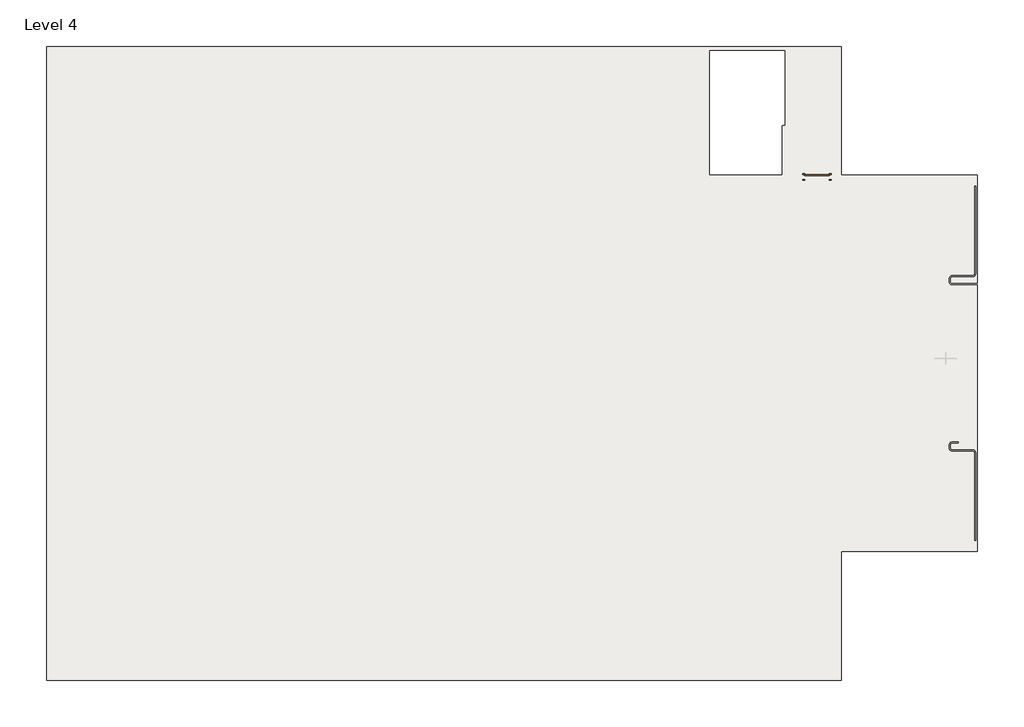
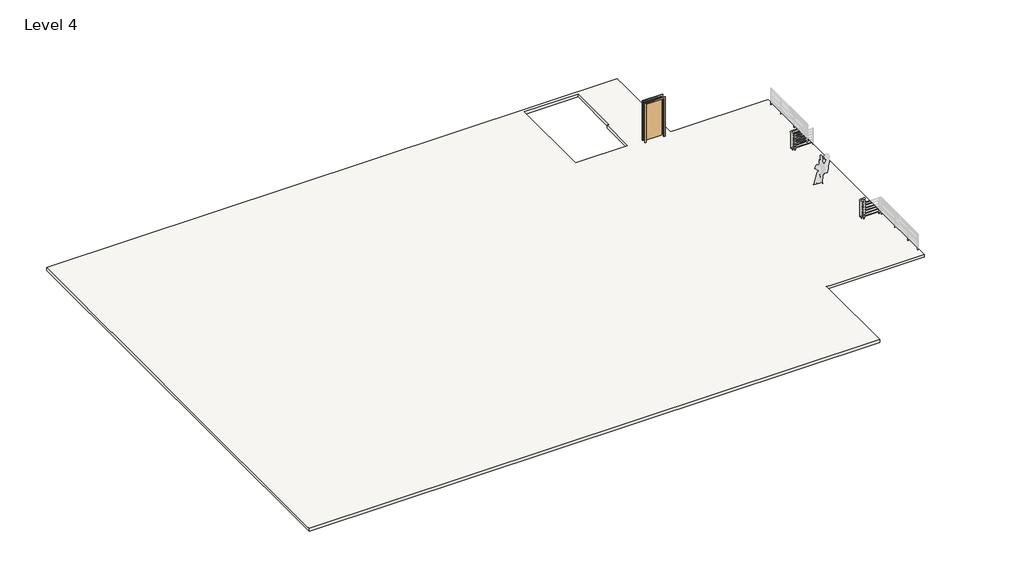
# One storey, part 1 of 4: 1 door, 1 slab.
"""IFC4 building model written with IfcOpenShell, lengths in millimetres."""

from ifc_helpers import new_model, si_unit, origin, place, context, project, spatial, faceted_brep, transform, mapped, element, save
from components import door_d6d25fb4

model = new_model("IFC4")

# Units and contexts
model_context = context("Model", 3, world=origin())
ifc_project = project(units=[si_unit("LENGTHUNIT", "METRE", prefix="MILLI")], contexts=[model_context])

# Site, building, storey
site = spatial("IfcSite", under=ifc_project)
building = spatial("IfcBuilding", under=site)
storey = spatial("IfcBuildingStorey", under=building, Name="Level 4", Elevation=10972.8)

# Door
placement = place(None, origin())
door_shape = door_d6d25fb4(model_context)
element("IfcDoor", 1, ObjectType="Single-Flush : 36\" x 84\"", at=placement, inside=storey, context=model_context, shape_type="MappedRepresentation", body=[
    mapped(door_shape, transform((11946.7089721, 4553.8023319, 10972.8), x_axis=(1.0, 0.0, 0.0), y_axis=(0.0, 1.0, 0.0), z_axis=(0.0, 0.0, 1.0))),
])

# Slab
element("IfcSlab", 2, ObjectType="Concrete Deck with Terrazzo", at=placement, inside=storey, context=model_context, shape_type="Brep", body=[
    faceted_brep([(-17231.5410279, 9498.8648319, 10820.4), (-17066.4410279, 9498.8648319, 10820.4), (12873.8089721, 9498.8648319, 10820.4), (12873.8089721, 9333.7648319, 10820.4), (12873.8089721, 9076.5898319, 10820.4), (12873.8089721, 5418.9898319, 10820.4), (12873.8089721, 4622.0648319, 10820.4), (13061.1339721, 4622.0648319, 10820.4), (17937.9339721, 4622.0648319, 10820.4), (18023.4049721, 4622.0648319, 10820.4), (18023.4049721, -9633.6851681, 10820.4), (17937.9339721, -9633.6851681, 10820.4), (13061.1339721, -9633.6851681, 10820.4), (12873.8089721, -9633.6851681, 10820.4), (12873.8089721, -10430.6101681, 10820.4), (12873.8089721, -14088.2101681, 10820.4), (12873.8089721, -14345.3851681, 10820.4), (12873.8089721, -14510.4851681, 10820.4), (-17231.5410279, -14510.4851681, 10820.4), (-17231.5410279, -14345.3851681, 10820.4), (7883.7381388, 9333.7648319, 10820.4), (7883.7381388, 4651.5398319, 10820.4), (10616.9131388, 4651.5398319, 10820.4), (10616.9131388, 6514.3648319, 10820.4), (10718.2353862, 6514.3648319, 10820.4), (10718.2353862, 9333.7648319, 10820.4), (12873.8089721, 9498.8648319, 10972.8), (-17066.4410279, 9498.8648319, 10972.8), (-17231.5410279, 9498.8648319, 10972.8), (-17231.5410279, -14345.3851681, 10972.8), (-17231.5410279, -14510.4851681, 10972.8), (12873.8089721, -14510.4851681, 10972.8), (12873.8089721, -14345.3851681, 10972.8), (12873.8089721, -14088.2101681, 10972.8), (12873.8089721, -10430.6101681, 10972.8), (12873.8089721, -9633.6851681, 10972.8), (13061.1339721, -9633.6851681, 10972.8), (17937.9339721, -9633.6851681, 10972.8), (18023.4049721, -9633.6851681, 10972.8), (18023.4049721, 4622.0648319, 10972.8), (17937.9339721, 4622.0648319, 10972.8), (13061.1339721, 4622.0648319, 10972.8), (12873.8089721, 4622.0648319, 10972.8), (12873.8089721, 5418.9898319, 10972.8), (12873.8089721, 9076.5898319, 10972.8), (12873.8089721, 9333.7648319, 10972.8), (7883.7381388, 4651.5398319, 10972.8), (7883.7381388, 9333.7648319, 10972.8), (10718.2353862, 9333.7648319, 10972.8), (10718.2353862, 6514.3648319, 10972.8), (10616.9131388, 6514.3648319, 10972.8), (10616.9131388, 4651.5398319, 10972.8)], [[[0, 1, 2, 3, 4, 5, 6, 7, 8, 9, 10, 11, 12, 13, 14, 15, 16, 17, 18, 19], [20, 21, 22, 23, 24, 25]], [[26, 27, 28, 29, 30, 31, 32, 33, 34, 35, 36, 37, 38, 39, 40, 41, 42, 43, 44, 45], [46, 47, 48, 49, 50, 51]], [[2, 1, 0, 28, 27, 26]], [[6, 5, 4, 3, 2, 26, 45, 44, 43, 42]], [[9, 8, 7, 6, 42, 41, 40, 39]], [[10, 9, 39, 38]], [[13, 12, 11, 10, 38, 37, 36, 35]], [[17, 16, 15, 14, 13, 35, 34, 33, 32, 31]], [[18, 17, 31, 30]], [[0, 19, 18, 30, 29, 28]], [[20, 47, 46, 21]], [[21, 46, 51, 22]], [[22, 51, 50, 23]], [[23, 50, 49, 24]], [[24, 49, 48, 25]], [[47, 20, 25, 48]]]),
])

save(model, "model.ifc")
